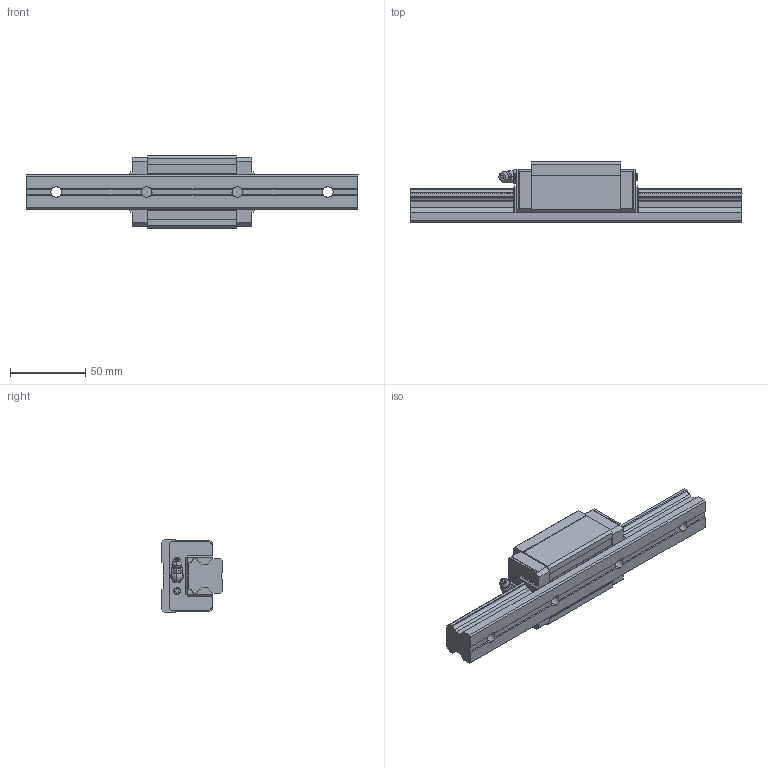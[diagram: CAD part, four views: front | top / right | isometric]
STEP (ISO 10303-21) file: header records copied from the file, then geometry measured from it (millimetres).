
FILE_DESCRIPTION (( 'STEP AP203' ), '1' );
FILE_NAME ('HSV25RSS.STEP', '2016-03-14T13:45:20', ( 'EOS' ), ( '' ), 'SwSTEP 2.0', 'SolidWorks 2016', '' );
FILE_SCHEMA (( 'CONFIG_CONTROL_DESIGN' ));
Length unit declared in the file: millimetre
Products named in the file (4): 1; 3; HSV25RSS; HSV25R
Assembly tree (3 placements, depth 2):
  HSV25RSS
    1
    HSV25R
    3
Bounding box: 220 x 40 x 48 mm (x, y, z)
Volume: 186252.7 mm3; surface area: 42965.6 mm2
Topology: 2 solids, 3 shells, 303 faces, 809 edges, 513 vertices
Faces by surface type: plane 200, cylinder 50, cone 36, bspline 17
Entity records: 10421 total; most frequent: CARTESIAN_POINT 2599, ORIENTED_EDGE 1583, DIRECTION 1490, EDGE_CURVE 793, LINE 564, VECTOR 564, VERTEX_POINT 513, AXIS2_PLACEMENT_3D 463
